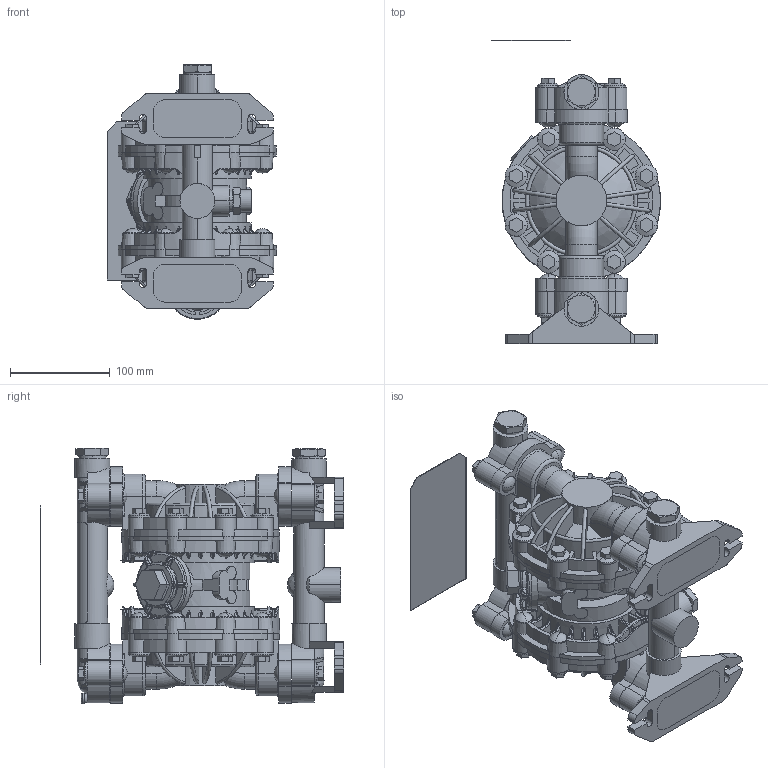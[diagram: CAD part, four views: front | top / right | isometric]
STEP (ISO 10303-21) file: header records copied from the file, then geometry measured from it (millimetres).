
FILE_DESCRIPTION((''),'2;1');
FILE_NAME('241564-EN-V_PRT','2019-12-31T16:34:26',('qusrh3'),(''),'CREO PARAMETRIC BY PTC INC, 2019030','CREO PARAMETRIC BY PTC INC, 2019030','');
FILE_SCHEMA(('CONFIG_CONTROL_DESIGN'));
Products named in the file (1): 241564-EN-V_PRT
Bounding box: 170.01 x 304.8 x 256.86 mm (x, y, z)
Surface area: 590850.9 mm2 (no closed solid volume)
Topology: 0 solids, 140 shells, 2764 faces, 8178 edges, 5394 vertices
Faces by surface type: plane 1114, cylinder 731, bspline 332, torus 295, sphere 175, cone 91, extrusion 26
Entity records: 109225 total; most frequent: CARTESIAN_POINT 37891, ORIENTED_EDGE 15207, DIRECTION 14552, EDGE_CURVE 8130, AXIS2_PLACEMENT_3D 5507, VERTEX_POINT 5394, VECTOR 3538, LINE 3512
